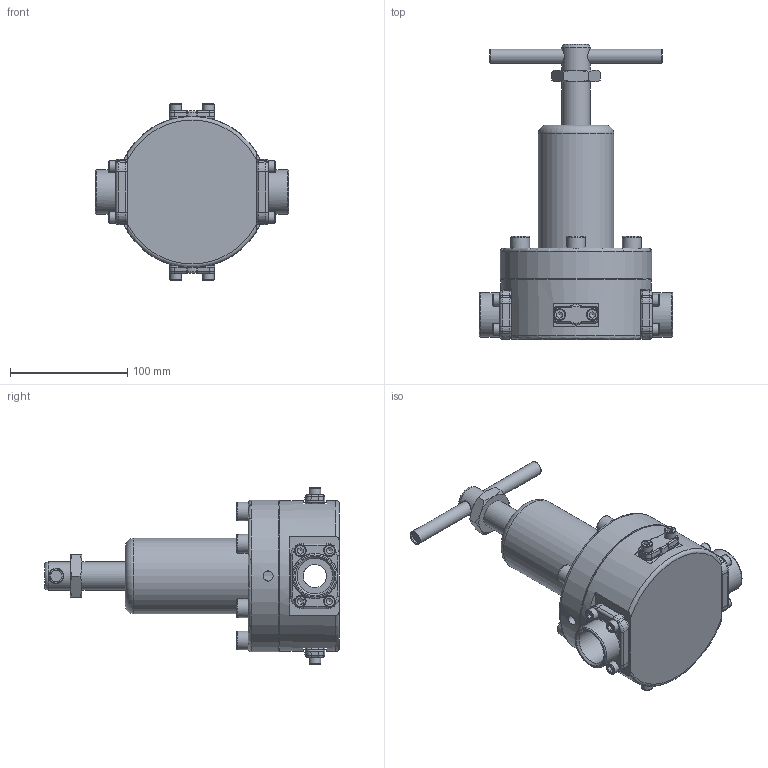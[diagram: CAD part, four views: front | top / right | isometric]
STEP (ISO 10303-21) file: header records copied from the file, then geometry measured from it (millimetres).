
FILE_DESCRIPTION(/* description */ ('Valvola di sfioro 3VSS2'),/* implementation_level */ '2;1');
FILE_NAME(/* name */ 'B-D3000-08AT-ET_01.step',/* time_stamp */ '2025-12-01T08:47:24+01:00',/* author */ (''),/* organization */ (''),/* preprocessor_version */ 'ST-DEVELOPER v20.1',/* originating_system */ 'Autodesk Translation Framework v14.21.0.0',/* authorisation */ '');
FILE_SCHEMA (('AUTOMOTIVE_DESIGN { 1 0 10303 214 3 1 1 }'));
Length unit declared in the file: millimetre
Products named in the file (15): C85024; P20702; P37098; P31004; C43013; P43064; 0DE07B; P30012; 0DN111; OR 07075; P37131; 0DC10410; OR 07021; 0DC10620; P37083
Assembly tree (34 placements, depth 3):
  C85024
    P20702
    OR 07075  x2
    0DC10410  x12
    P37131  x2
    OR 07021  x2
    P37098
    0DC10620  x6
    P31004
    C43013
      P43064
      0DE07B
      P30012
      0DN111
    P37083  x2
Bounding box: 165 x 252 x 150.6 mm (x, y, z)
Volume: 655896.2 mm3; surface area: 215840.6 mm2
Topology: 24 solids, 24 shells, 705 faces, 1736 edges, 1099 vertices
Faces by surface type: plane 253, cylinder 159, torus 123, cone 115, bspline 54, sphere 1
Full cylindrical faces by diameter (mm): 4.917 x12, 5 x2, 6 x12, 6.5 x12, 7.7 x2, 8.376 x6, 8.566 x1, 10 x20, 10.5 x6, 11.2 x2, 12 x1, 12.2 x1, 16 x6, 20 x2, 24 x2, 30.291 x2, 34.6 x2, 38 x2, 38.5 x2, 60 x1, 64.5 x1, 98 x2, 126.5 x1, 127 x1, 129 x1, 129.5 x1
Entity records: 14901 total; most frequent: CARTESIAN_POINT 4786, DIRECTION 2172, ORIENTED_EDGE 1938, EDGE_CURVE 969, AXIS2_PLACEMENT_3D 931, VERTEX_POINT 625, CIRCLE 479, EDGE_LOOP 474
